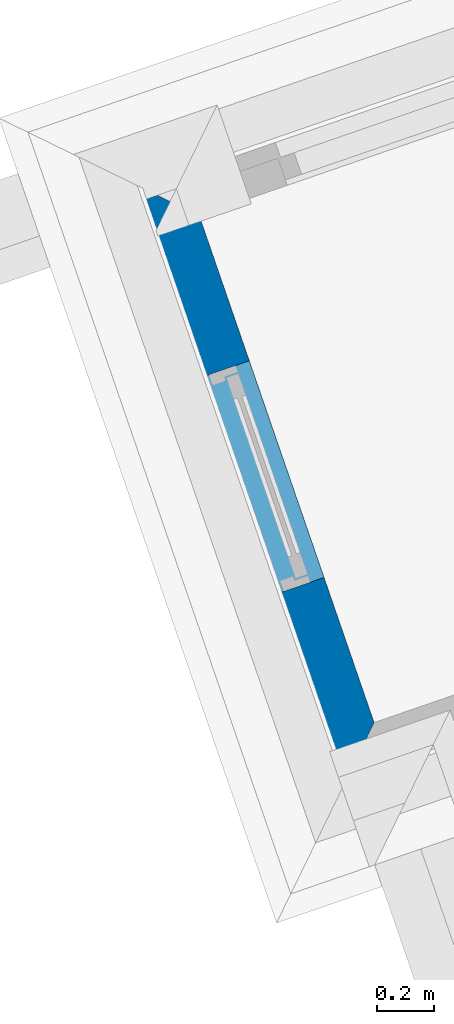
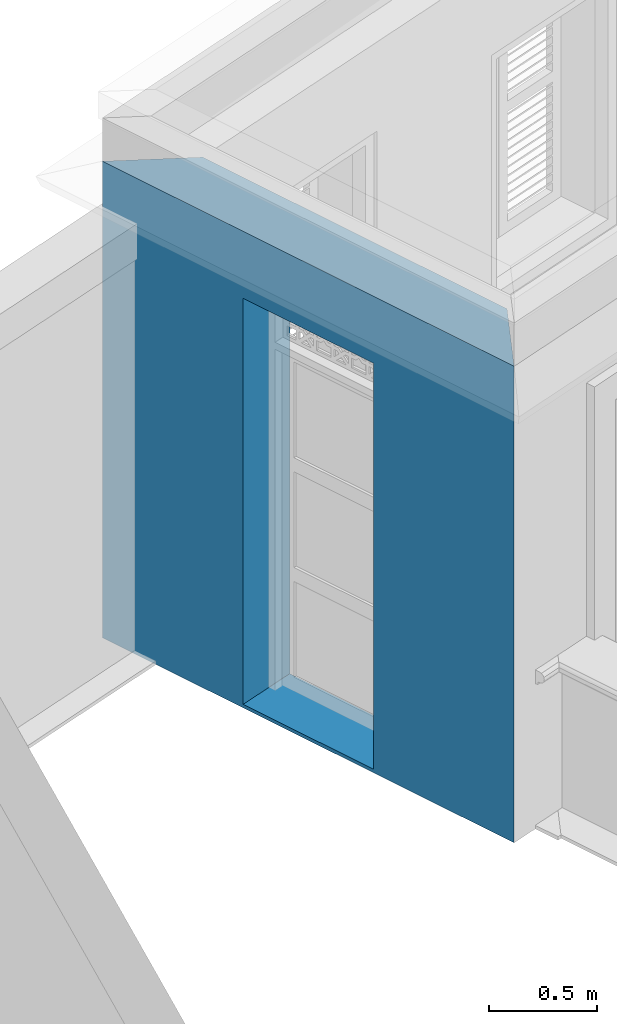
# One storey, part 10 of 16: 1 wall, 1 opening.
"""IFC4 building model written with IfcOpenShell, lengths in metres."""

from ifc_helpers import new_model, si_unit, frame, origin_with_axes, place, context, subcontext, project, spatial, polyline, outline, extrude, material, layer, layer_set, layer_usage, type_object, element, save


model = new_model("IFC4")

# Units and contexts
model_context = context("Model", 3, world=origin_with_axes())
body_context = subcontext(model_context, "Body", "Model", "MODEL_VIEW")
ifc_project = project(units=[si_unit("PLANEANGLEUNIT", "RADIAN"), si_unit("MASSUNIT", "GRAM", prefix="KILO"), si_unit("FORCEUNIT", "NEWTON", prefix="KILO"), si_unit("LENGTHUNIT", "METRE"), si_unit("AREAUNIT", "SQUARE_METRE"), si_unit("VOLUMEUNIT", "CUBIC_METRE")], contexts=[model_context, model_context])

# Site, building, storey
site_placement = place(None, origin_with_axes())
site = spatial("IfcSite", under=ifc_project, at=site_placement, Name="Site plot-8", CompositionType="ELEMENT")
building_placement = place(None, origin_with_axes())
building = spatial("IfcBuilding", under=site, at=building_placement, Name="Building plot-8", CompositionType="ELEMENT")
storey_placement = place(None, frame((0.0, 0.0, 3.0), z_axis=(0.0, 0.0, 1.0), x_axis=(1.0, 0.0, 0.0)))
storey = spatial("IfcBuildingStorey", under=building, at=storey_placement, Name="plot-8 1", CompositionType="ELEMENT", Elevation=3.0)

# Wall, opening
ifc_material = material(Name="Masonry")
ifc_layer = layer(ifc_material, 0.33, ventilated=False)
ifc_layer_set = layer_set([ifc_layer], Name="exterior_0.08_0.25")
ifc_layer_usage = layer_usage(ifc_layer_set, "AXIS2", "POSITIVE", -0.25)
wall_type = type_object("IfcWallType", Name="exterior_0.08_0.25", PredefinedType="SOLIDWALL", material=ifc_layer_set)
wall_placement = place(storey_placement, frame((-12.2630116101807, 22.4843771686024, 0.0), z_axis=(0.0, 0.0, 1.0), x_axis=(0.326112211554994, -0.945331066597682, 0.0)))
wall = element("IfcWall", 1, at=wall_placement, inside=storey, type_object=wall_type, material=ifc_layer_usage, Name="exterior", context=body_context, shape_type="SweptSolid", body=[
    extrude(outline(polyline([(0.0799999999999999, 0.0800000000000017), (-0.249999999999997, -0.250000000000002), (2.28106767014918, -0.250000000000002), (1.95106767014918, 0.0799999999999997), (0.0799999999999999, 0.0800000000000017)])), origin_with_axes(), (0.0, 0.0, 1.0), 2.7),
])
opening_placement = place(wall_placement, frame((0.615533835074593, 0.0, 0.02)))
element("IfcOpeningElement", 2, at=opening_placement, cuts=wall, Name="My Opening", ObjectType="Opening", context=body_context, shape_type="SweptSolid", body=[
    extrude(outline(polyline([(0.0, -0.270000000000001), (0.800000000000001, -0.270000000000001), (0.800000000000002, 1.1), (1.11022302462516e-15, 1.1), (0.0, -0.270000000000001)])), origin_with_axes(), (0.0, 0.0, 1.0), 2.3),
])

save(model, "model.ifc")
